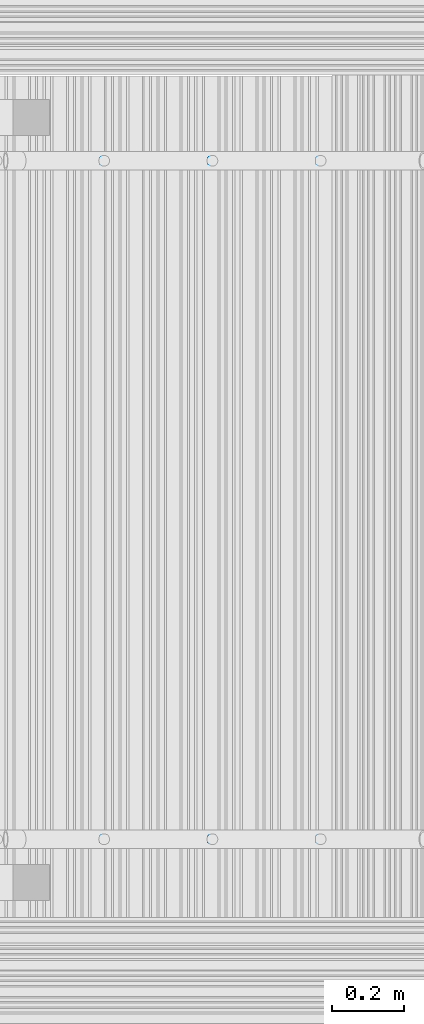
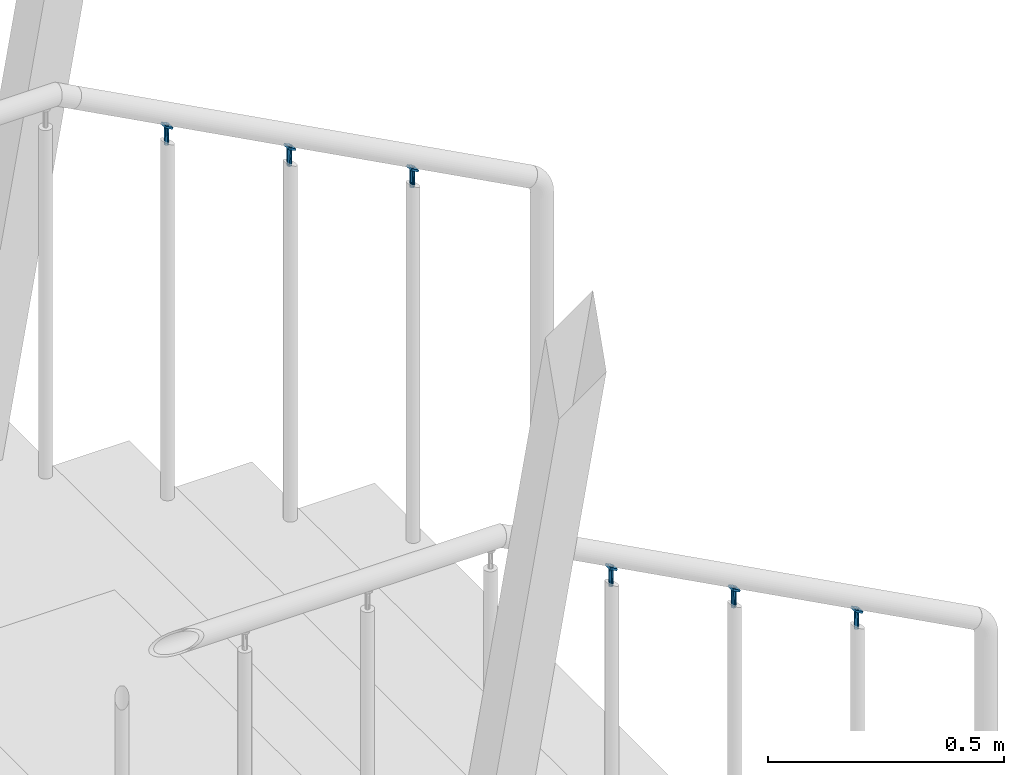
# One storey, part 71 of 418: 2 building element parts, 4 elements without a shape of their own.
"""IFC2X3 building model written with IfcOpenShell, lengths in millimetres."""

from ifc_helpers import new_model, entity, si_unit, converted_unit, derived_unit, money_unit, direction, frame, origin_with_axes, place, context, subcontext, project, spatial, faceted_brep, source, transform, mapped, material, type_object, element, aggregate, save


model = new_model("IFC2X3")

# Units and contexts
model_context = context("Model", 3, precision=0.01, world=origin_with_axes(), true_north=direction((0.0, 1.0)))
body_context = subcontext(model_context, "Body", "Model", "MODEL_VIEW")
ifc_project = project(units=[si_unit("LENGTHUNIT", "METRE", prefix="MILLI"), si_unit("AREAUNIT", "SQUARE_METRE"), si_unit("VOLUMEUNIT", "CUBIC_METRE"), converted_unit("PLANEANGLEUNIT", "DEGREE", entity("IfcPlaneAngleMeasure", 0.0174532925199), si_unit("PLANEANGLEUNIT", "RADIAN"), dimensions=[0, 0, 0, 0, 0, 0, 0]), si_unit("SOLIDANGLEUNIT", "STERADIAN"), money_unit("EUR"), converted_unit("TIMEUNIT", "Year", entity("IfcTimeMeasure", 31556926.0), si_unit("TIMEUNIT", "SECOND"), dimensions=[0, 0, 1, 0, 0, 0, 0]), si_unit("MASSUNIT", "GRAM", prefix="KILO"), si_unit("THERMODYNAMICTEMPERATUREUNIT", "DEGREE_CELSIUS"), si_unit("LUMINOUSINTENSITYUNIT", "LUMEN"), si_unit("ENERGYUNIT", "JOULE", prefix="MEGA"), derived_unit("THERMALCONDUCTANCEUNIT", [(si_unit("POWERUNIT", "WATT"), 1), (si_unit("LENGTHUNIT", "METRE"), -1), (si_unit("THERMODYNAMICTEMPERATUREUNIT", "KELVIN"), -1)]), derived_unit("SPECIFICHEATCAPACITYUNIT", [(si_unit("ENERGYUNIT", "JOULE"), 1), (si_unit("MASSUNIT", "GRAM", prefix="KILO"), -1), (si_unit("THERMODYNAMICTEMPERATUREUNIT", "KELVIN"), -1)]), derived_unit("MASSDENSITYUNIT", [(si_unit("MASSUNIT", "GRAM", prefix="KILO"), 1), (si_unit("VOLUMEUNIT", "CUBIC_METRE"), -1)])], contexts=[model_context])

# Site, building, storey
site_placement = place(None, origin_with_axes())
site = spatial("IfcSite", under=ifc_project, at=site_placement, Name="Paldiski mnt 245/1, Tallinn, Harjumaa", CompositionType="COMPLEX")
building_placement = place(site_placement, origin_with_axes())
building = spatial("IfcBuilding", under=site, at=building_placement, Name="RKAS Hoone üldnimetus (kasutust iseloomustav) -> IFC Project Manager -> SOLIBRI", CompositionType="ELEMENT")
storey_placement = place(building_placement, origin_with_axes())
storey = spatial("IfcBuildingStorey", under=building, at=storey_placement, Name="Esimene korrus", CompositionType="ELEMENT", Elevation=0.0)

# Proxies, building element part
building_element_proxy_type_1 = type_object("IfcBuildingElementProxyType", Name="Railing Type", PredefinedType="NOTDEFINED")
proxy_1_placement = place(storey_placement, frame((-46768.8433803, 32771.6822003, -641.218687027), z_axis=(0.0, 0.0, 1.0), x_axis=(1.0, 0.0, 0.0)))
proxy_1 = element("IfcBuildingElementProxy", 1, at=proxy_1_placement, inside=storey, type_object=building_element_proxy_type_1, Name="Trepipiire")
building_element_proxy_type_2 = type_object("IfcBuildingElementProxyType", Name="IfcBuildingElementProxy", PredefinedType="NOTDEFINED")
proxy_2_placement = place(proxy_1_placement, frame((1818.60171567, 0.0, 944.098300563), z_axis=(0.0, 0.0, 1.0), x_axis=(1.0, 0.0, 0.0)))
proxy_2 = element("IfcBuildingElementProxy", 2, at=proxy_2_placement, type_object=building_element_proxy_type_2, Name="ÜL PIIRE - 001")
aggregate(proxy_1, [proxy_2])
ifc_material = material(Name="Teras - Konstruktsioon")
shared_shape = source(origin_with_axes(), body_context, "Body", "Brep", [
    faceted_brep([(273.128790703, -10.0, 791.936717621), (273.128790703, 10.0, 791.936717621), (275.482435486, 10.0, 796.348106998), (275.482435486, -10.0, 796.348106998), (255.483233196, -10.0, 801.351296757), (255.483233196, 10.0, 801.351296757), (257.83687798, 10.0, 805.762686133), (257.83687798, -10.0, 805.762686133)], [[[0, 1, 2, 3]], [[0, 4, 5, 1]], [[1, 5, 6, 2]], [[3, 2, 6, 7]], [[4, 0, 3, 7]], [[5, 4, 7, 6]]]),
    faceted_brep([(261.092073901, -3.8302222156, 751.644007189), (261.80601195, -4.33012701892, 751.644007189), (261.80601195, -4.33012701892, 804.978847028), (261.092073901, -3.8302222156, 804.978847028), (259.975884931, -2.5, 751.644007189), (259.607548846, -1.71010071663, 751.644007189), (259.381973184, -0.868240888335, 751.644007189), (259.30601195, 0.0, 751.644007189), (259.381973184, 0.868240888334, 751.644007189), (259.607548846, 1.71010071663, 751.644007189), (259.975884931, 2.5, 751.644007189), (260.475789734, 3.21393804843, 751.644007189), (261.092073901, 3.83022221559, 751.644007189), (261.80601195, 4.33012701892, 751.644007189), (262.595911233, 4.69846310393, 751.644007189), (263.437771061, 4.92403876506, 751.644007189), (264.30601195, 5.0, 751.644007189), (265.174252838, 4.92403876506, 751.644007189), (266.016112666, 4.69846310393, 751.644007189), (266.80601195, 4.33012701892, 751.644007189), (267.519949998, 3.83022221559, 751.644007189), (268.136234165, 3.21393804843, 751.644007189), (268.636138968, 2.5, 751.644007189), (269.004475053, 1.71010071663, 751.644007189), (269.230050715, 0.868240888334, 751.644007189), (269.30601195, 0.0, 751.644007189), (269.230050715, -0.868240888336, 751.644007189), (269.004475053, -1.71010071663, 751.644007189), (268.636138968, -2.5, 751.644007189), (268.136234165, -3.21393804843, 751.644007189), (267.519949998, -3.8302222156, 751.644007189), (266.80601195, -4.33012701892, 751.644007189), (266.016112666, -4.69846310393, 751.644007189), (265.174252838, -4.92403876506, 751.644007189), (264.30601195, -5.0, 751.644007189), (263.437771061, -4.92403876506, 751.644007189), (262.595911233, -4.69846310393, 751.644007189), (260.475789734, -3.21393804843, 751.644007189), (262.595911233, -4.69846310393, 804.978847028), (259.975884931, -2.5, 804.978847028), (260.475789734, -3.21393804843, 804.978847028), (263.437771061, -4.92403876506, 804.978847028), (264.30601195, -5.0, 804.978847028), (264.30601195, 5.0, 804.978847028), (263.437771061, 4.92403876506, 804.978847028), (262.595911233, 4.69846310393, 804.978847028), (261.80601195, 4.33012701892, 804.978847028), (261.092073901, 3.83022221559, 804.978847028), (260.475789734, 3.21393804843, 804.978847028), (259.975884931, 2.5, 804.978847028), (259.607548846, 1.71010071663, 804.978847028), (259.381973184, 0.868240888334, 804.978847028), (259.30601195, 0.0, 804.978847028), (259.381973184, -0.868240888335, 804.978847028), (259.607548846, -1.71010071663, 804.978847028), (265.174252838, 4.92403876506, 804.51560734), (266.016112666, 4.69846310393, 804.066442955), (266.80601195, 4.33012701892, 803.645001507), (267.519949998, 3.83022221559, 803.26408828), (268.136234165, 3.21393804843, 802.935277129), (268.636138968, 2.5, 802.668558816), (269.004475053, 1.71010071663, 802.472037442), (269.230050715, 0.868240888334, 802.351684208), (269.30601195, 0.0, 802.311155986), (269.230050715, -0.868240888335, 802.351684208), (269.004475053, -1.71010071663, 802.472037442), (268.636138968, -2.5, 802.668558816), (268.136234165, -3.21393804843, 802.935277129), (267.519949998, -3.8302222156, 803.26408828), (266.80601195, -4.33012701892, 803.645001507), (266.016112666, -4.69846310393, 804.066442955), (265.174252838, -4.92403876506, 804.51560734)], [[[0, 1, 2, 3]], [[4, 5, 6, 7, 8, 9, 10, 11, 12, 13, 14, 15, 16, 17, 18, 19, 20, 21, 22, 23, 24, 25, 26, 27, 28, 29, 30, 31, 32, 33, 34, 35, 36, 1, 0, 37]], [[1, 36, 38, 2]], [[39, 40, 3, 2, 38, 41, 42, 43, 44, 45, 46, 47, 48, 49, 50, 51, 52, 53, 54]], [[37, 0, 3, 40]], [[5, 4, 39, 54]], [[6, 5, 54, 53]], [[7, 6, 53, 52]], [[8, 7, 52, 51]], [[9, 8, 51, 50]], [[9, 50, 49, 10]], [[11, 10, 49, 48]], [[12, 11, 48, 47]], [[13, 12, 47, 46]], [[14, 13, 46, 45]], [[15, 14, 45, 44]], [[16, 15, 44, 43]], [[17, 16, 43, 55]], [[56, 18, 17, 55]], [[19, 18, 56, 57]], [[20, 19, 57, 58]], [[20, 58, 59, 21]], [[22, 21, 59, 60]], [[23, 22, 60, 61]], [[24, 23, 61, 62]], [[25, 24, 62, 63]], [[26, 25, 63, 64]], [[65, 27, 26, 64]], [[28, 27, 65, 66]], [[29, 28, 66, 67]], [[30, 29, 67, 68]], [[31, 30, 68, 69]], [[32, 31, 69, 70]], [[33, 32, 70, 71]], [[34, 33, 71, 42]], [[35, 34, 42, 41]], [[36, 35, 41, 38]], [[4, 37, 40, 39]], [[70, 69, 68, 67, 66, 65, 64, 63, 62, 61, 60, 59, 58, 57, 56, 55, 43, 42, 71]]]),
    faceted_brep([(573.128790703, -10.0, 631.875255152), (573.128790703, 9.99999999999, 631.875255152), (575.482435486, 9.99999999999, 636.286644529), (575.482435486, -10.0, 636.286644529), (555.483233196, -10.0, 641.289834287), (555.483233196, 9.99999999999, 641.289834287), (557.83687798, 9.99999999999, 645.701223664), (557.83687798, -10.0, 645.701223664)], [[[0, 1, 2, 3]], [[0, 4, 5, 1]], [[1, 5, 6, 2]], [[3, 2, 6, 7]], [[4, 0, 3, 7]], [[5, 4, 7, 6]]]),
    faceted_brep([(560.475789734, -3.21393804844, 591.58254472), (561.092073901, -3.8302222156, 591.58254472), (561.092073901, -3.8302222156, 644.917384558), (560.475789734, -3.21393804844, 644.917384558), (559.975884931, -2.50000000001, 591.58254472), (559.607548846, -1.71010071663, 591.58254472), (559.381973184, -0.868240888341, 591.58254472), (559.30601195, 0.0, 591.58254472), (559.381973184, 0.868240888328, 591.58254472), (559.607548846, 1.71010071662, 591.58254472), (559.975884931, 2.49999999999, 591.58254472), (560.475789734, 3.21393804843, 591.58254472), (561.092073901, 3.83022221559, 591.58254472), (561.80601195, 4.33012701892, 591.58254472), (562.595911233, 4.69846310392, 591.58254472), (563.437771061, 4.92403876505, 591.58254472), (564.30601195, 4.99999999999, 591.58254472), (565.174252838, 4.92403876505, 591.58254472), (566.016112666, 4.69846310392, 591.58254472), (566.80601195, 4.33012701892, 591.58254472), (567.519949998, 3.83022221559, 591.58254472), (568.136234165, 3.21393804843, 591.58254472), (568.636138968, 2.49999999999, 591.58254472), (569.004475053, 1.71010071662, 591.58254472), (569.230050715, 0.868240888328, 591.58254472), (569.30601195, 0.0, 591.58254472), (569.230050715, -0.868240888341, 591.58254472), (569.004475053, -1.71010071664, 591.58254472), (568.636138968, -2.50000000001, 591.58254472), (568.136234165, -3.21393804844, 591.58254472), (567.519949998, -3.8302222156, 591.58254472), (566.80601195, -4.33012701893, 591.58254472), (566.016112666, -4.69846310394, 591.58254472), (565.174252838, -4.92403876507, 591.58254472), (564.30601195, -5.00000000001, 591.58254472), (563.437771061, -4.92403876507, 591.58254472), (562.595911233, -4.69846310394, 591.58254472), (561.80601195, -4.33012701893, 591.58254472), (561.80601195, -4.33012701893, 644.917384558), (559.975884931, -2.50000000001, 644.917384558), (562.595911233, -4.69846310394, 644.917384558), (563.437771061, -4.92403876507, 644.917384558), (564.30601195, -5.00000000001, 644.917384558), (564.30601195, 4.99999999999, 644.917384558), (563.437771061, 4.92403876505, 644.917384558), (562.595911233, 4.69846310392, 644.917384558), (561.80601195, 4.33012701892, 644.917384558), (561.092073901, 3.83022221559, 644.917384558), (560.475789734, 3.21393804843, 644.917384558), (559.975884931, 2.49999999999, 644.917384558), (559.607548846, 1.71010071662, 644.917384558), (559.381973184, 0.868240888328, 644.917384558), (559.30601195, 0.0, 644.917384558), (559.381973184, -0.868240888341, 644.917384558), (559.607548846, -1.71010071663, 644.917384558), (565.174252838, 4.92403876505, 644.45414487), (566.016112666, 4.69846310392, 644.004980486), (566.80601195, 4.33012701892, 643.583539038), (567.519949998, 3.83022221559, 643.20262581), (568.136234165, 3.21393804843, 642.87381466), (568.636138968, 2.49999999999, 642.607096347), (569.004475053, 1.71010071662, 642.410574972), (569.230050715, 0.868240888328, 642.290221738), (569.30601195, 0.0, 642.249693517), (569.230050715, -0.868240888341, 642.290221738), (569.004475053, -1.71010071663, 642.410574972), (568.636138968, -2.50000000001, 642.607096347), (568.136234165, -3.21393804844, 642.87381466), (567.519949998, -3.8302222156, 643.20262581), (566.80601195, -4.33012701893, 643.583539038), (566.016112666, -4.69846310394, 644.004980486), (565.174252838, -4.92403876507, 644.45414487)], [[[0, 1, 2, 3]], [[4, 5, 6, 7, 8, 9, 10, 11, 12, 13, 14, 15, 16, 17, 18, 19, 20, 21, 22, 23, 24, 25, 26, 27, 28, 29, 30, 31, 32, 33, 34, 35, 36, 37, 1, 0]], [[1, 37, 38, 2]], [[39, 3, 2, 38, 40, 41, 42, 43, 44, 45, 46, 47, 48, 49, 50, 51, 52, 53, 54]], [[4, 0, 3, 39]], [[5, 4, 39, 54]], [[6, 5, 54, 53]], [[7, 6, 53, 52]], [[8, 7, 52, 51]], [[9, 8, 51, 50]], [[9, 50, 49, 10]], [[11, 10, 49, 48]], [[12, 11, 48, 47]], [[13, 12, 47, 46]], [[14, 13, 46, 45]], [[15, 14, 45, 44]], [[16, 15, 44, 43]], [[17, 16, 43, 55]], [[56, 18, 17, 55]], [[19, 18, 56, 57]], [[20, 19, 57, 58]], [[20, 58, 59, 21]], [[22, 21, 59, 60]], [[23, 22, 60, 61]], [[24, 23, 61, 62]], [[25, 24, 62, 63]], [[64, 26, 25, 63]], [[27, 26, 64, 65]], [[28, 27, 65, 66]], [[29, 28, 66, 67]], [[30, 29, 67, 68]], [[31, 30, 68, 69]], [[32, 31, 69, 70]], [[33, 32, 70, 71]], [[34, 33, 71, 42]], [[35, 34, 42, 41]], [[36, 35, 41, 40]], [[37, 36, 40, 38]], [[70, 69, 68, 67, 66, 65, 64, 63, 62, 61, 60, 59, 58, 57, 56, 55, 43, 42, 71]]]),
    faceted_brep([(873.128790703, -10.0, 471.813792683), (873.128790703, 9.99999999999, 471.813792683), (875.482435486, 9.99999999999, 476.225182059), (875.482435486, -10.0, 476.225182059), (855.483233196, -10.0, 481.228371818), (855.483233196, 9.99999999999, 481.228371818), (857.83687798, 9.99999999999, 485.639761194), (857.83687798, -10.0, 485.639761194)], [[[0, 1, 2, 3]], [[0, 4, 5, 1]], [[1, 5, 6, 2]], [[3, 2, 6, 7]], [[4, 0, 3, 7]], [[5, 4, 7, 6]]]),
    faceted_brep([(860.475789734, -3.21393804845, 431.52108225), (861.092073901, -3.83022221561, 431.52108225), (861.092073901, -3.83022221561, 484.855922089), (860.475789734, -3.21393804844, 484.855922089), (859.975884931, -2.50000000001, 431.52108225), (859.607548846, -1.71010071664, 431.52108225), (859.381973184, -0.868240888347, 431.52108225), (859.30601195, 0.0, 431.52108225), (859.381973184, 0.868240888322, 431.52108225), (859.607548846, 1.71010071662, 431.52108225), (859.975884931, 2.49999999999, 431.52108225), (860.475789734, 3.21393804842, 431.52108225), (861.092073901, 3.83022221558, 431.52108225), (861.80601195, 4.33012701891, 431.52108225), (862.595911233, 4.69846310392, 431.52108225), (863.437771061, 4.92403876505, 431.52108225), (864.30601195, 4.99999999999, 431.52108225), (865.174252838, 4.92403876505, 431.52108225), (866.016112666, 4.69846310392, 431.52108225), (866.80601195, 4.33012701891, 431.52108225), (867.519949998, 3.83022221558, 431.52108225), (868.136234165, 3.21393804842, 431.52108225), (868.636138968, 2.49999999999, 431.52108225), (869.004475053, 1.71010071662, 431.52108225), (869.230050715, 0.868240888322, 431.52108225), (869.30601195, 0.0, 431.52108225), (869.230050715, -0.868240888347, 431.52108225), (869.004475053, -1.71010071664, 431.52108225), (868.636138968, -2.50000000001, 431.52108225), (868.136234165, -3.21393804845, 431.52108225), (867.519949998, -3.83022221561, 431.52108225), (866.80601195, -4.33012701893, 431.52108225), (866.016112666, -4.69846310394, 431.52108225), (865.174252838, -4.92403876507, 431.52108225), (864.30601195, -5.00000000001, 431.52108225), (863.437771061, -4.92403876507, 431.52108225), (862.595911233, -4.69846310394, 431.52108225), (861.80601195, -4.33012701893, 431.52108225), (861.80601195, -4.33012701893, 484.855922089), (859.975884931, -2.50000000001, 484.855922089), (862.595911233, -4.69846310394, 484.855922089), (863.437771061, -4.92403876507, 484.855922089), (864.30601195, -5.00000000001, 484.855922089), (864.30601195, 4.99999999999, 484.855922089), (863.437771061, 4.92403876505, 484.855922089), (862.595911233, 4.69846310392, 484.855922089), (861.80601195, 4.33012701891, 484.855922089), (861.092073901, 3.83022221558, 484.855922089), (860.475789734, 3.21393804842, 484.855922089), (859.975884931, 2.49999999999, 484.855922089), (859.607548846, 1.71010071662, 484.855922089), (859.381973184, 0.868240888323, 484.855922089), (859.30601195, 0.0, 484.855922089), (859.381973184, -0.868240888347, 484.855922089), (859.607548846, -1.71010071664, 484.855922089), (865.174252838, 4.92403876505, 484.392682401), (866.016112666, 4.69846310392, 483.943518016), (866.80601195, 4.33012701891, 483.522076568), (867.519949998, 3.83022221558, 483.141163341), (868.136234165, 3.21393804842, 482.812352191), (868.636138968, 2.49999999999, 482.545633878), (869.004475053, 1.71010071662, 482.349112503), (869.230050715, 0.868240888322, 482.228759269), (869.30601195, 0.0, 482.188231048), (869.230050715, -0.868240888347, 482.228759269), (869.004475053, -1.71010071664, 482.349112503), (868.636138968, -2.50000000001, 482.545633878), (868.136234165, -3.21393804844, 482.812352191), (867.519949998, -3.83022221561, 483.141163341), (866.80601195, -4.33012701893, 483.522076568), (866.016112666, -4.69846310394, 483.943518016), (865.174252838, -4.92403876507, 484.392682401)], [[[0, 1, 2, 3]], [[4, 5, 6, 7, 8, 9, 10, 11, 12, 13, 14, 15, 16, 17, 18, 19, 20, 21, 22, 23, 24, 25, 26, 27, 28, 29, 30, 31, 32, 33, 34, 35, 36, 37, 1, 0]], [[1, 37, 38, 2]], [[39, 3, 2, 38, 40, 41, 42, 43, 44, 45, 46, 47, 48, 49, 50, 51, 52, 53, 54]], [[4, 0, 3, 39]], [[5, 4, 39, 54]], [[6, 5, 54, 53]], [[7, 6, 53, 52]], [[8, 7, 52, 51]], [[9, 8, 51, 50]], [[9, 50, 49, 10]], [[11, 10, 49, 48]], [[12, 11, 48, 47]], [[13, 12, 47, 46]], [[14, 13, 46, 45]], [[15, 14, 45, 44]], [[16, 15, 44, 43]], [[17, 16, 43, 55]], [[56, 18, 17, 55]], [[19, 18, 56, 57]], [[20, 19, 57, 58]], [[20, 58, 59, 21]], [[22, 21, 59, 60]], [[23, 22, 60, 61]], [[24, 23, 61, 62]], [[25, 24, 62, 63]], [[26, 25, 63, 64]], [[27, 26, 64, 65]], [[28, 27, 65, 66]], [[29, 28, 66, 67]], [[30, 29, 67, 68]], [[69, 31, 30, 68]], [[32, 31, 69, 70]], [[33, 32, 70, 71]], [[34, 33, 71, 42]], [[35, 34, 42, 41]], [[36, 35, 41, 40]], [[37, 36, 40, 38]], [[70, 69, 68, 67, 66, 65, 64, 63, 62, 61, 60, 59, 58, 57, 56, 55, 43, 42, 71]]]),
])
building_element_part_1_placement = place(proxy_2_placement, origin_with_axes())
building_element_part_1 = element("IfcBuildingElementPart", 3, at=building_element_part_1_placement, material=ifc_material, Name="Teras - Konstruktsioon", context=body_context, shape_type="MappedRepresentation", body=[
    mapped(shared_shape, transform((-607.16888448, 0.0, -322.879613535))),
])
aggregate(proxy_2, [building_element_part_1])

proxy_3_placement = place(storey_placement, frame((-46768.8433803, 30891.790867, -641.218687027), z_axis=(0.0, 0.0, 1.0), x_axis=(1.0, 0.0, 0.0)))
proxy_3 = element("IfcBuildingElementProxy", 4, at=proxy_3_placement, inside=storey, type_object=building_element_proxy_type_1, Name="Trepipiire")
proxy_4_placement = place(proxy_3_placement, frame((1818.60171567, 0.0, 944.098300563), z_axis=(0.0, 0.0, 1.0), x_axis=(1.0, 0.0, 0.0)))
proxy_4 = element("IfcBuildingElementProxy", 5, at=proxy_4_placement, type_object=building_element_proxy_type_2, Name="ÜL PIIRE - 001")
aggregate(proxy_3, [proxy_4])
building_element_part_2_placement = place(proxy_4_placement, origin_with_axes())
building_element_part_2 = element("IfcBuildingElementPart", 6, at=building_element_part_2_placement, material=ifc_material, Name="Teras - Konstruktsioon", context=body_context, shape_type="MappedRepresentation", body=[
    mapped(shared_shape, transform((-607.16888448, 0.0, -322.879613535))),
])
aggregate(proxy_4, [building_element_part_2])

save(model, "model.ifc")
